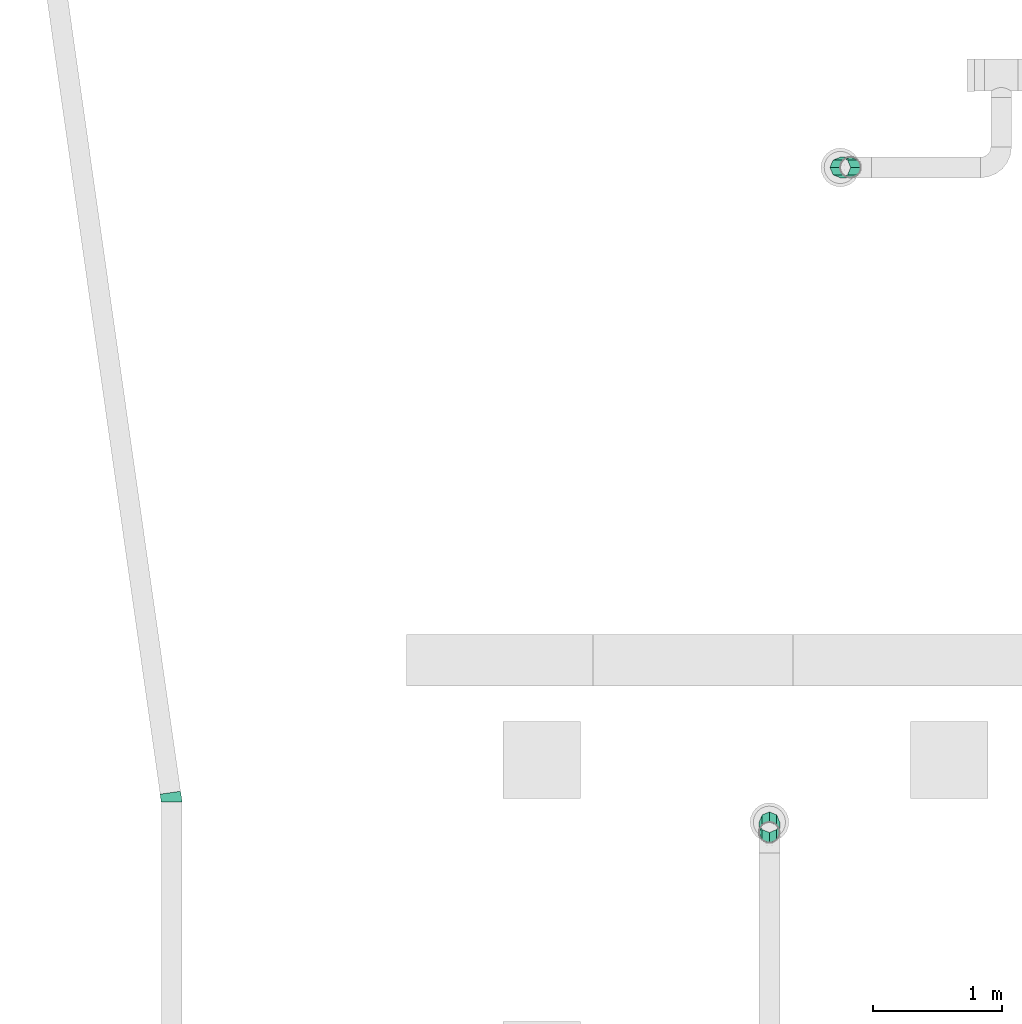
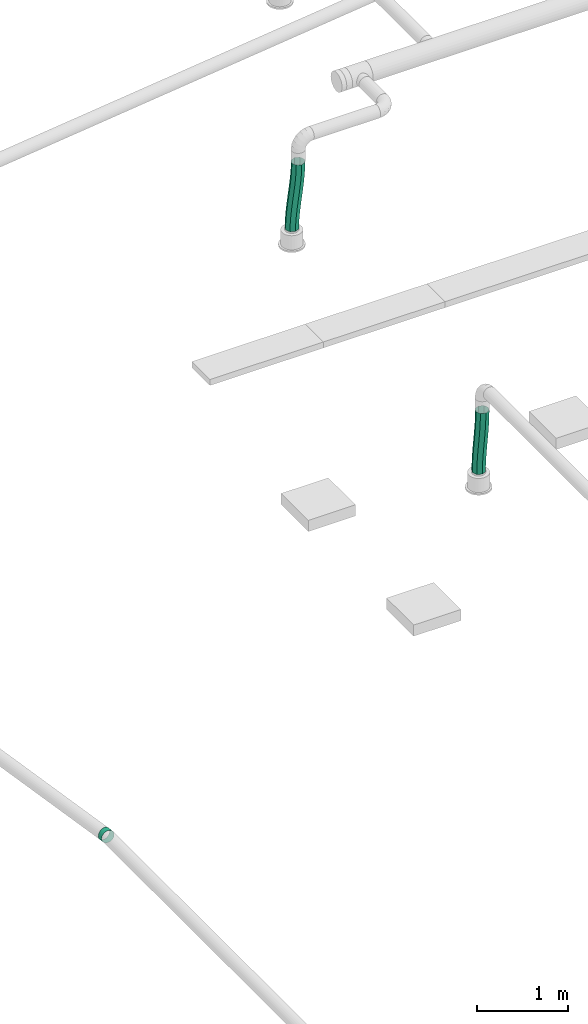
# One storey, part 237 of 374: 2 flow segments, 1 flow fitting.
"""IFC2X3 building model written with IfcOpenShell, lengths in metres."""

from ifc_helpers import new_model, si_unit, direction, origin, place, context, subcontext, project, spatial, open_shell, surface_model, source, transform, mapped, element, save


model = new_model("IFC2X3")

# Units and contexts
model_context = context("Model", 3, precision=1e-05, world=origin(), true_north=direction((-0.4480736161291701, 0.8939966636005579)))
body_context = subcontext(model_context, "Body", "Model", "MODEL_VIEW")
ifc_project = project(units=[si_unit("LENGTHUNIT", "METRE"), si_unit("AREAUNIT", "SQUARE_METRE"), si_unit("VOLUMEUNIT", "CUBIC_METRE"), si_unit("PLANEANGLEUNIT", "RADIAN"), si_unit("THERMODYNAMICTEMPERATUREUNIT", "KELVIN"), si_unit("MASSUNIT", "GRAM", prefix="KILO"), si_unit("TIMEUNIT", "SECOND")], contexts=[model_context])

# Site, building, storey
site_placement = place(None, origin())
site = spatial("IfcSite", under=ifc_project, at=site_placement, Name="Site 1", CompositionType="ELEMENT")
building_placement = place(site_placement, origin())
building = spatial("IfcBuilding", under=site, at=building_placement, Name="Undefined", CompositionType="ELEMENT")
storey_placement = place(building_placement, origin())
storey = spatial("IfcBuildingStorey", under=building, at=storey_placement, Name="Rez de chauss\x8ee", CompositionType="ELEMENT", Elevation=0.0)

# Flow fitting
shared_shape_1 = source(origin(), body_context, "Body", "SurfaceModel", [
    surface_model("IfcFaceBasedSurfaceModel", [(0.0, 0.020884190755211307, 0.0), (0.0, 0.0, 0.0), (0.06000000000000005, 8.8817842e-16, 0.0), (0.060000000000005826, 0.02088419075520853, 0.0), (0.0, -0.020172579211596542, -0.005405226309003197), (0.060000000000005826, -0.020172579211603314, -0.005405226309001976), (0.0, -0.03825881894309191, -0.015847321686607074), (0.060000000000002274, -0.03825881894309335, -0.015847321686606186), (0.0, -0.05302617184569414, -0.0306146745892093), (0.060000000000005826, -0.05302617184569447, -0.030614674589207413), (0.0, -0.06346826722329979, -0.04870091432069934), (0.060000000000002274, -0.06346826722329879, -0.04870091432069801), (0.0, -0.06887349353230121, -0.06887349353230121), (0.060000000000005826, -0.06887349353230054, -0.06887349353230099), (0.0, -0.06887349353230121, -0.08975768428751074), (0.060000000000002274, -0.06887349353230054, -0.08975768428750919), (0.0, -0.06346826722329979, -0.10993026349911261), (0.060000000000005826, -0.06346826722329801, -0.10993026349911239), (0.0, -0.05302617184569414, -0.12801650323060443), (0.060000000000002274, -0.05302617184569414, -0.12801650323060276), (0.0, -0.038258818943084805, -0.14278385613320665), (0.060000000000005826, -0.03825881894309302, -0.14278385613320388), (0.0, -0.020172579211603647, -0.15322595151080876), (0.060000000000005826, -0.020172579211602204, -0.15322595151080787), (0.0, 7.105427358e-15, -0.15863117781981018), (0.060000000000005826, 8.8817842e-16, -0.15863117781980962), (0.0, 0.020884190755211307, -0.15863117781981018), (0.060000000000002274, 0.020884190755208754, -0.1586311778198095), (0.0, 0.04105676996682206, -0.15322595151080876), (0.060000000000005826, 0.041056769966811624, -0.15322595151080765), (0.0, 0.05914300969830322, -0.1427838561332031), (0.060000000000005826, 0.05914300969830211, -0.14278385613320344), (0.0, 0.07391036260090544, -0.12801650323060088), (0.060000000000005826, 0.073910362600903, -0.12801650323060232), (0.0, 0.0843524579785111, -0.10993026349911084), (0.060000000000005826, 0.0843524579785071, -0.10993026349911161), (0.0, 0.08975768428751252, -0.08975768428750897), (0.060000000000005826, 0.08975768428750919, -0.08975768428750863), (0.0, 0.08975768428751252, -0.06887349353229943), (0.060000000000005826, 0.08975768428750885, -0.06887349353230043), (0.0, 0.0843524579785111, -0.048700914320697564), (0.060000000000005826, 0.08435245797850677, -0.04870091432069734), (0.0, 0.07391036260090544, -0.030614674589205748), (0.060000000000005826, 0.07391036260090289, -0.03061467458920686), (0.0, 0.05914300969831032, -0.015847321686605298), (0.060000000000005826, 0.05914300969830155, -0.015847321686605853), (0.0, 0.04105676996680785, -0.005405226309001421), (0.060000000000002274, 0.04105676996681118, -0.005405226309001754), (0.0722506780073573, -0.06844411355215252, -0.08981421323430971), (0.07244317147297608, -0.06843736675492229, -0.06893091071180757), (0.08444019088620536, -0.06715811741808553, -0.08998351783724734), (0.08482421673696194, -0.06713116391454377, -0.06910287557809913), (0.07168631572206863, -0.06305866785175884, -0.10998418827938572), (0.08331428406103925, -0.061831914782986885, -0.1101456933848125), (0.07078854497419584, -0.05264803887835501, -0.12806628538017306), (0.08152322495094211, -0.0515155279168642, -0.12821538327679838), (0.0696185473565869, -0.03792169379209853, -0.14282823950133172), (0.07918907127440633, -0.03691200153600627, -0.1429611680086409), (0.06825605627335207, -0.01988320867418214, -0.15326404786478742), (0.07647089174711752, -0.019016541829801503, -0.1533781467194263), (0.06679392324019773, 0.00023812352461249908, -0.15866252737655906), (0.07355392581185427, 0.0009513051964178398, -0.15875641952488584), (0.06533179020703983, 0.021071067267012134, -0.15865578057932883), (0.07063695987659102, 0.021630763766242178, -0.1587294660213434), (0.06396929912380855, 0.04119589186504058, -0.15324426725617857), (0.06791878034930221, 0.04161256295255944, -0.15329912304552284), (0.06279930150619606, 0.059241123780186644, -0.142796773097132), (0.06558462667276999, 0.05953497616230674, -0.14283545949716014), (0.06190153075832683, 0.07397701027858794, -0.12802527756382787), (0.0637935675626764, 0.07417662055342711, -0.12805155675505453), (0.06133716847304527, 0.08439932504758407, -0.1099364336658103), (0.06266766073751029, 0.08453969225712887, -0.10995491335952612), (0.06114467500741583, 0.08979780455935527, -0.08976296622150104), (0.0622836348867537, 0.08991796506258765, -0.08977878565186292), (0.06133716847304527, 0.08980455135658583, -0.0688796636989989), (0.06266766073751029, 0.08994491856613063, -0.06889814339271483), (0.06190153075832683, 0.0844191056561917, -0.04870968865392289), (0.0637935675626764, 0.08461871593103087, -0.04873596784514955), (0.06279930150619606, 0.07400847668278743, -0.030627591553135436), (0.06558462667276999, 0.07430232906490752, -0.030666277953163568), (0.06396929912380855, 0.05928213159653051, -0.015865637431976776), (0.06791878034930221, 0.05969880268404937, -0.015920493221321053), (0.06533179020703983, 0.04124364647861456, -0.005429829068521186), (0.07063695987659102, 0.041803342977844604, -0.0055035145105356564), (0.06679392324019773, 0.021122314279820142, -3.134955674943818e-05), (0.07355392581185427, 0.021835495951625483, -0.0001252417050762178), (0.06825605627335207, 0.00028937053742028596, -3.8096353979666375e-05), (0.07647089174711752, 0.0011560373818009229, -0.00015219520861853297), (0.0696185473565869, -0.019835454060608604, -0.00544960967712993), (0.07918907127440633, -0.01882576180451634, -0.005582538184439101), (0.07078854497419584, -0.037880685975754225, -0.015897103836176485), (0.08152322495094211, -0.03674817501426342, -0.0160462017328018), (0.07168631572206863, -0.05261657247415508, -0.030668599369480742), (0.08331428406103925, -0.05138981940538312, -0.030830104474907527), (0.0722506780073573, -0.06303888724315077, -0.048757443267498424), (0.08444019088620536, -0.061752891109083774, -0.04892674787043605)], [open_shell([[[0, 1, 2, 3]], [[1, 4, 5, 2]], [[4, 6, 7, 5]], [[6, 8, 9, 7]], [[8, 10, 11, 9]], [[10, 12, 13, 11]], [[12, 14, 15, 13]], [[14, 16, 17, 15]], [[16, 18, 19, 17]], [[18, 20, 21, 19]], [[20, 22, 23, 21]], [[22, 24, 25, 23]], [[24, 26, 27, 25]], [[26, 28, 29, 27]], [[28, 30, 31, 29]], [[30, 32, 33, 31]], [[32, 34, 35, 33]], [[34, 36, 37, 35]], [[36, 38, 39, 37]], [[38, 40, 41, 39]], [[40, 42, 43, 41]], [[42, 44, 45, 43]], [[44, 46, 47, 45]], [[46, 0, 3, 47]], [[13, 15, 48, 49]], [[49, 48, 50, 51]], [[15, 17, 52, 48]], [[48, 52, 53, 50]], [[17, 19, 54, 52]], [[52, 54, 55, 53]], [[19, 21, 56, 54]], [[54, 56, 57, 55]], [[21, 23, 58, 56]], [[56, 58, 59, 57]], [[23, 25, 60, 58]], [[58, 60, 61, 59]], [[25, 27, 62, 60]], [[60, 62, 63, 61]], [[27, 29, 64, 62]], [[62, 64, 65, 63]], [[29, 31, 66, 64]], [[64, 66, 67, 65]], [[31, 33, 68, 66]], [[66, 68, 69, 67]], [[33, 35, 70, 68]], [[68, 70, 71, 69]], [[35, 37, 72, 70]], [[70, 72, 73, 71]], [[37, 39, 74, 72]], [[72, 74, 75, 73]], [[39, 41, 76, 74]], [[74, 76, 77, 75]], [[41, 43, 78, 76]], [[76, 78, 79, 77]], [[43, 45, 80, 78]], [[78, 80, 81, 79]], [[45, 47, 82, 80]], [[80, 82, 83, 81]], [[47, 3, 84, 82]], [[82, 84, 85, 83]], [[3, 2, 86, 84]], [[84, 86, 87, 85]], [[2, 5, 88, 86]], [[86, 88, 89, 87]], [[5, 7, 90, 88]], [[88, 90, 91, 89]], [[7, 9, 92, 90]], [[90, 92, 93, 91]], [[9, 11, 94, 92]], [[92, 94, 95, 93]], [[11, 13, 49, 94]], [[94, 49, 51, 95]]])]),
])
flow_fitting_placement = place(storey_placement, origin())
element("IfcFlowFitting", 1, at=flow_fitting_placement, inside=storey, Name="PE-HD coude 90° à grand rayon", ObjectType="PE-HD coude 90° à grand rayon", context=body_context, shape_type="MappedRepresentation", body=[
    mapped(shared_shape_1, transform((-1.6418663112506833, 17.187066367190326, -0.8708619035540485), x_axis=(0.14087863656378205, -0.9900268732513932, 0.0), y_axis=(-0.9815570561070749, -0.1396734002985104, -0.13052619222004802), z_axis=(0.12922443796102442, 0.018388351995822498, -0.9914448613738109))),
])

# Flow segments
shared_shape_2 = source(origin(), body_context, "Body", "SurfaceModel", [
    surface_model("IfcFaceBasedSurfaceModel", [(0.09425707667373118, -1.776356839e-15, -1.33226763e-15), (0.05356602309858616, 0.045752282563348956, -8.8817842e-16), (0.0, 0.0, 0.0), (0.03894014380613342, -0.047251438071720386, -1.15084111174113e-06), (-0.05541274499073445, -0.0440415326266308, 0.0010358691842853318), (-0.017993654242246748, -0.09250640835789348, 0.0010617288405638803), (-0.11243304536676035, -0.0867910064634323, 0.002911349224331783), (-0.07622094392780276, -0.1361642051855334, 0.002975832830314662), (-0.1707571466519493, -0.12862219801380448, 0.0054269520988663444), (-0.1354183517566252, -0.1786241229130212, 0.005528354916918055), (-0.23007333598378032, -0.1699146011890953, 0.00837924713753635), (-0.19526250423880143, -0.220285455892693, 0.008506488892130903), (-0.2900642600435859, -0.21105507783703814, 0.011560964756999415), (-0.2554300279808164, -0.2615474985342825, 0.011697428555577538), (-0.35040838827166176, -0.2524386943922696, 0.014761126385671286), (-0.315597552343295, -0.30280954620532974, 0.014888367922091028), (-0.4107805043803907, -0.2944689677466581, 0.017765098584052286), (-0.37544170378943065, -0.34447088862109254, 0.017866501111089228), (-0.4708512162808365, -0.33755762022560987, 0.02035453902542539), (-0.4346391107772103, -0.38693081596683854, 0.020419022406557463), (-0.5302854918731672, -0.38212374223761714, 0.022307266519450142), (-0.4928664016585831, -0.43058861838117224, 0.02233312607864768), (-0.5887403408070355, -0.4285921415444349, 0.023397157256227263), (-0.5498002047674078, -0.4758435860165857, 0.023396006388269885), (-0.6458081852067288, -0.4773427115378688, 0.02339485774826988), (-0.605117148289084, -0.5230950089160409, 0.023394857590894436), (0.02506153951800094, 0.07834277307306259, -0.04329419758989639), (-0.02777923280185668, 0.033211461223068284, -0.043293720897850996), (-0.08256193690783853, -0.010327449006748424, -0.042269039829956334), (-0.13908228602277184, -0.05270068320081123, -0.040409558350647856), (-0.19704465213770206, -0.09427144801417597, -0.037909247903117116), (-0.2561421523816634, -0.13541103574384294, -0.03496765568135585), (-0.31605992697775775, -0.1765011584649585, -0.03178975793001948), (-0.3764772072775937, -0.21793513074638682, -0.02858577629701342), (-0.4370680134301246, -0.26011822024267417, -0.025571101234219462), (-0.4975004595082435, -0.30346729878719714, -0.022966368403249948), (-0.5574346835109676, -0.34840965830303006, -0.02099764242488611), (-0.6165195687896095, -0.39538067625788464, -0.019896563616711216), (-0.6743126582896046, -0.4447522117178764, -0.019899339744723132), (0.02544116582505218, 0.07868040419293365, -0.10452143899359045), (-0.028124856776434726, 0.03292812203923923, -0.10452143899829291), (-0.08353760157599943, -0.011113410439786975, -0.10348556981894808), (-0.14055790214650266, -0.05386288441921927, -0.1016100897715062), (-0.19888200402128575, -0.09569407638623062, -0.09909448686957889), (-0.2581981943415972, -0.13698648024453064, -0.09614219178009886), (-0.31818911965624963, -0.1781269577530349, -0.09296047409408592), (-0.3785332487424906, -0.2195105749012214, -0.08976031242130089), (-0.43890536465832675, -0.26154084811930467, -0.08675634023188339), (-0.4989760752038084, -0.30462949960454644, -0.08416689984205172), (-0.5584103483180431, -0.3491956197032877, -0.08221417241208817), (-0.6168651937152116, -0.3956640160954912, -0.08112428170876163), (-0.673933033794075, -0.44441458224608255, -0.08112658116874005), (0.05448252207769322, 0.0465673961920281, -0.14781563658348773), (-0.0008344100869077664, -0.0006840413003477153, -0.1478167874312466), (-0.05776820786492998, -0.045939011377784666, -0.1467539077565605), (-0.11599549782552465, -0.08959680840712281, -0.14483980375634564), (-0.17519290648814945, -0.1320567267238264, -0.14228728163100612), (-0.2350370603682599, -0.17371806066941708, -0.13930914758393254), (-0.2952045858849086, -0.21498010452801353, -0.13611820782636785), (-0.3553721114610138, -0.2562421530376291, -0.13292726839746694), (-0.4152162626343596, -0.297903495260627, -0.12994913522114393), (-0.47441366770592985, -0.34036342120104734, -0.12739661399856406), (-0.5326409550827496, -0.38402122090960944, -0.12548251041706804), (-0.5895747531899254, -0.4292761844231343, -0.12441963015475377), (-0.6448916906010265, -0.4765276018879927, -0.12442077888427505), (0.09517357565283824, 0.0008151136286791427, -0.1478156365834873), (0.0381057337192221, -0.047935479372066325, -0.14781793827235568), (-0.02034911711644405, -0.09440388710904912, -0.1467280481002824), (-0.07978339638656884, -0.13897000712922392, -0.14477532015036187), (-0.13985411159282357, -0.1820586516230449, -0.1421858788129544), (-0.2002262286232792, -0.22408891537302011, -0.13918190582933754), (-0.2605703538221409, -0.2654725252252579, -0.1359817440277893), (-0.32056127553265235, -0.30661300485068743, -0.13280002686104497), (-0.3798774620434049, -0.3479054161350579, -0.12984773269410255), (-0.4382015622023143, -0.38973661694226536, -0.12733213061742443), (-0.49522186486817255, -0.4324860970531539, -0.12545665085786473), (-0.5506346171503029, -0.4765276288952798, -0.12442078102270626), (-0.6042006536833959, -0.5222798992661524, -0.12442077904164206), (0.1236780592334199, -0.03177537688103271, -0.10452143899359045), (0.06588496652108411, -0.08114694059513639, -0.10452421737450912), (0.00680007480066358, -0.1281179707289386, -0.10342313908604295), (-0.053134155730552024, -0.1730603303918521, -0.10145441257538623), (-0.11356660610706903, -0.21640940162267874, -0.09884967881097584), (-0.1741574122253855, -0.25859248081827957, -0.095835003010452), (-0.2345746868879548, -0.3000264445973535, -0.09263102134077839), (-0.2944924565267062, -0.3411165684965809, -0.08945312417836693), (-0.35358995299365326, -0.382256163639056, -0.0865115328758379), (-0.4115523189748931, -0.4238269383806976, -0.08401122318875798), (-0.4680726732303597, -0.4662001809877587, -0.08215174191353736), (-0.5228553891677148, -0.5097390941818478, -0.08112706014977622), (-0.5756961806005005, -0.5548703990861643, -0.08112658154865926), (0.12329843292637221, -0.03211300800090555, -0.04329419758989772), (0.06623059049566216, -0.0808636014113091, -0.04329649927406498), (0.007775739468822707, -0.12733200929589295, -0.0422066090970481), (-0.05165853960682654, -0.17189812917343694, -0.040253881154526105), (-0.1117292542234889, -0.21498677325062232, -0.037664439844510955), (-0.17210137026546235, -0.2570170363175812, -0.03466046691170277), (-0.23244549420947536, -0.29840064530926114, -0.03146030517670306), (-0.2924364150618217, -0.3395411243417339, -0.028278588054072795), (-0.3517526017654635, -0.38083353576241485, -0.025326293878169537), (-0.4100767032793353, -0.42266473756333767, -0.02281069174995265), (-0.46709700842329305, -0.4654142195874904, -0.020935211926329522), (-0.5225097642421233, -0.5094557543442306, -0.019899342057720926), (-0.5760758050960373, -0.555208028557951, -0.019899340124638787)], [open_shell([[[0, 1, 2]], [[2, 3, 0]], [[3, 2, 4]], [[4, 5, 3]], [[5, 4, 6]], [[6, 7, 5]], [[7, 6, 8]], [[8, 9, 7]], [[9, 8, 10]], [[10, 11, 9]], [[11, 10, 12]], [[12, 13, 11]], [[13, 12, 14]], [[14, 15, 13]], [[15, 14, 16]], [[16, 17, 15]], [[17, 16, 18]], [[18, 19, 17]], [[19, 18, 20]], [[20, 21, 19]], [[21, 20, 22]], [[22, 23, 21]], [[23, 22, 24]], [[24, 25, 23]], [[1, 26, 27]], [[27, 2, 1]], [[2, 27, 28]], [[28, 4, 2]], [[4, 28, 29]], [[29, 6, 4]], [[6, 29, 30]], [[30, 8, 6]], [[8, 30, 31]], [[31, 10, 8]], [[10, 31, 32]], [[32, 12, 10]], [[12, 32, 33]], [[33, 14, 12]], [[14, 33, 34]], [[34, 16, 14]], [[16, 34, 35]], [[35, 18, 16]], [[18, 35, 36]], [[36, 20, 18]], [[20, 36, 37]], [[37, 22, 20]], [[22, 37, 38]], [[38, 24, 22]], [[26, 39, 40]], [[40, 27, 26]], [[27, 40, 41]], [[41, 28, 27]], [[28, 41, 42]], [[42, 29, 28]], [[29, 42, 43]], [[43, 30, 29]], [[30, 43, 44]], [[44, 31, 30]], [[31, 44, 45]], [[45, 32, 31]], [[32, 45, 46]], [[46, 33, 32]], [[33, 46, 47]], [[47, 34, 33]], [[34, 47, 48]], [[48, 35, 34]], [[35, 48, 49]], [[49, 36, 35]], [[36, 49, 50]], [[50, 37, 36]], [[37, 50, 51]], [[51, 38, 37]], [[39, 52, 53]], [[53, 40, 39]], [[40, 53, 54]], [[54, 41, 40]], [[41, 54, 55]], [[55, 42, 41]], [[42, 55, 56]], [[56, 43, 42]], [[43, 56, 57]], [[57, 44, 43]], [[44, 57, 58]], [[58, 45, 44]], [[45, 58, 59]], [[59, 46, 45]], [[46, 59, 60]], [[60, 47, 46]], [[47, 60, 61]], [[61, 48, 47]], [[48, 61, 62]], [[62, 49, 48]], [[49, 62, 63]], [[63, 50, 49]], [[50, 63, 64]], [[64, 51, 50]], [[52, 65, 66]], [[66, 53, 52]], [[53, 66, 67]], [[67, 54, 53]], [[54, 67, 68]], [[68, 55, 54]], [[55, 68, 69]], [[69, 56, 55]], [[56, 69, 70]], [[70, 57, 56]], [[57, 70, 71]], [[71, 58, 57]], [[58, 71, 72]], [[72, 59, 58]], [[59, 72, 73]], [[73, 60, 59]], [[60, 73, 74]], [[74, 61, 60]], [[61, 74, 75]], [[75, 62, 61]], [[62, 75, 76]], [[76, 63, 62]], [[63, 76, 77]], [[77, 64, 63]], [[65, 78, 79]], [[79, 66, 65]], [[66, 79, 80]], [[80, 67, 66]], [[67, 80, 81]], [[81, 68, 67]], [[68, 81, 82]], [[82, 69, 68]], [[69, 82, 83]], [[83, 70, 69]], [[70, 83, 84]], [[84, 71, 70]], [[71, 84, 85]], [[85, 72, 71]], [[72, 85, 86]], [[86, 73, 72]], [[73, 86, 87]], [[87, 74, 73]], [[74, 87, 88]], [[88, 75, 74]], [[75, 88, 89]], [[89, 76, 75]], [[76, 89, 90]], [[90, 77, 76]], [[78, 91, 92]], [[92, 79, 78]], [[79, 92, 93]], [[93, 80, 79]], [[80, 93, 94]], [[94, 81, 80]], [[81, 94, 95]], [[95, 82, 81]], [[82, 95, 96]], [[96, 83, 82]], [[83, 96, 97]], [[97, 84, 83]], [[84, 97, 98]], [[98, 85, 84]], [[85, 98, 99]], [[99, 86, 85]], [[86, 99, 100]], [[100, 87, 86]], [[87, 100, 101]], [[101, 88, 87]], [[88, 101, 102]], [[102, 89, 88]], [[89, 102, 103]], [[103, 90, 89]], [[91, 0, 3]], [[3, 92, 91]], [[92, 3, 5]], [[5, 93, 92]], [[93, 5, 7]], [[7, 94, 93]], [[94, 7, 9]], [[9, 95, 94]], [[95, 9, 11]], [[11, 96, 95]], [[96, 11, 13]], [[13, 97, 96]], [[97, 13, 15]], [[15, 98, 97]], [[98, 15, 17]], [[17, 99, 98]], [[99, 17, 19]], [[19, 100, 99]], [[100, 19, 21]], [[21, 101, 100]], [[101, 21, 23]], [[23, 102, 101]], [[102, 23, 25]], [[25, 103, 102]]])]),
])
flow_segment_1_placement = place(storey_placement, origin())
element("IfcFlowSegment", 2, at=flow_segment_1_placement, inside=storey, Name="Tube flexible", ObjectType="Tube flexible", context=body_context, shape_type="MappedRepresentation", body=[
    mapped(shared_shape_2, transform((2.9234845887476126, 16.93339267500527, 3.4095709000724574), x_axis=(-0.2485909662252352, -0.6163532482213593, 0.7472022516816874), y_axis=(0.29104622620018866, 0.6882384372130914, 0.6645449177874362), z_axis=(-0.9238477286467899, 0.3826702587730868, 0.008297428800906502))),
])
shared_shape_3 = source(origin(), body_context, "Body", "SurfaceModel", [
    surface_model("IfcFaceBasedSurfaceModel", [(0.09295191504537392, 0.0, -8.8817842e-16), (0.05300383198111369, 0.04640241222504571, 0.0), (0.0, 0.0, 0.0), (0.04066677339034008, -0.04577386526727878, 1.1506142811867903e-06), (-0.052542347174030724, -0.04737458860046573, 0.0025003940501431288), (-0.011276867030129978, -0.09260944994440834, 0.00247453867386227), (-0.10482019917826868, -0.09563307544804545, 0.0070274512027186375), (-0.06309536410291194, -0.14044453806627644, 0.0069629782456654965), (-0.15697377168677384, -0.14463318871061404, 0.013099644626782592), (-0.11492478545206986, -0.1891405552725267, 0.012998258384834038), (-0.20914411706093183, -0.19422815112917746, 0.020225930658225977), (-0.16690238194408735, -0.23855255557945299, 0.020098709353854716), (-0.26147518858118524, -0.24426862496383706, 0.027905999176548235), (-0.21916950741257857, -0.28853197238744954, 0.02776955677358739), (-0.31411500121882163, -0.2946038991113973, 0.03563058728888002), (-0.2718732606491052, -0.3389282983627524, 0.03550336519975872), (-0.3672160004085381, -0.345082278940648, 0.0428816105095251), (-0.3251670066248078, -0.3895896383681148, 0.042780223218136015), (-0.4209346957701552, -0.3955506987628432, 0.049132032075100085), (-0.3792098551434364, -0.4403621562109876, 0.04906755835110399), (-0.475430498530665, -0.44585353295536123, 0.053845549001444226), (-0.434165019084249, -0.49108839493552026, 0.05381969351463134), (-0.5308636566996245, -0.49583065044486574, 0.05647634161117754), (-0.4901968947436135, -0.541604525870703, 0.05647749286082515), (-0.587337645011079, -0.5452679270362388, 0.0564707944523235), (-0.5473895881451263, -0.591670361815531, 0.05647079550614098), (0.02541343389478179, 0.07977962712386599, -0.043287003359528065), (-0.029325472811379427, 0.03185976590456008, -0.043289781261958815), (-0.08331322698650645, -0.016816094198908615, -0.04072418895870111), (-0.13670005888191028, -0.06609675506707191, -0.036103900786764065), (-0.18963619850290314, -0.11583101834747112, -0.02994259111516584), (-0.2422718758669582, -0.16586768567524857, -0.022753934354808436), (-0.2947573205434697, -0.21605555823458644, -0.015051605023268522), (-0.34724276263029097, -0.26624343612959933, -0.00734927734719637), (-0.3998784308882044, -0.3162801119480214, -0.00016062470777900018), (-0.4528145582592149, -0.3660143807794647, 0.00600068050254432), (-0.50620137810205, -0.41529503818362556, 0.010620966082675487), (-0.5601891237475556, -0.4639708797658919, 0.013186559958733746), (-0.6149280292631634, -0.5118907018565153, 0.013183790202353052), (0.026342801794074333, 0.08057972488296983, -0.10450407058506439), (-0.03013118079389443, 0.03114241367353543, -0.10450962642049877), (-0.08556434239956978, -0.018834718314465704, -0.10187883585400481), (-0.14006015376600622, -0.0691375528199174, -0.09716531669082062), (-0.19377885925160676, -0.11960596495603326, -0.09091489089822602), (-0.24687986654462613, -0.17008433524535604, -0.08366386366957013), (-0.29951968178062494, -0.22041960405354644, -0.07593927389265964), (-0.3518507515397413, -0.27046008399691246, -0.06825920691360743), (-0.4040210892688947, -0.3200550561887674, -0.06113292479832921), (-0.4561746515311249, -0.3690551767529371, -0.055060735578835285), (-0.5084524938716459, -0.4173136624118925, -0.050533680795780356), (-0.5609948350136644, -0.46468823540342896, -0.048033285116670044), (-0.6139986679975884, -0.511090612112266, -0.048033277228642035), (0.0552475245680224, 0.04833401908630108, -0.14779107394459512), (-0.0019451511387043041, -0.0017318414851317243, -0.14779778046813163), (-0.057977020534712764, -0.05224797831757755, -0.14513998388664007), (-0.11293218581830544, -0.10297421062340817, -0.14038784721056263), (-0.1669750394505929, -0.1537467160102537, -0.13410050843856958), (-0.22026879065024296, -0.2044080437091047, -0.1268236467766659), (-0.27297254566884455, -0.2548043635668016, -0.11908983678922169), (-0.32523967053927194, -0.30478378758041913, -0.11141899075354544), (-0.3772172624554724, -0.35419580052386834, -0.10431854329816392), (-0.42904667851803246, -0.4028918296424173, -0.09828326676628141), (-0.48086517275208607, -0.4507269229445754, -0.09379482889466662), (-0.532808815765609, -0.4975625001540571, -0.09132143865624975), (-0.585093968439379, -0.5433363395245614, -0.09132027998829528), (0.09519560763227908, 0.001931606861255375, -0.14779107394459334), (0.038721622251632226, -0.047505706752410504, -0.14779662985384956), (-0.0167115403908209, -0.09748283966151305, -0.14516583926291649), (-0.07120735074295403, -0.14778567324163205, -0.14045232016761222), (-0.12492605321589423, -0.19825408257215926, -0.13420189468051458), (-0.17802705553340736, -0.24873244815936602, -0.12695086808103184), (-0.23066686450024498, -0.29906771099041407, -0.11922627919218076), (-0.28299792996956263, -0.3491081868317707, -0.11154621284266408), (-0.3351682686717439, -0.39870315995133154, -0.10441993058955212), (-0.38732183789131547, -0.4477032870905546, -0.09834774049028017), (-0.4395996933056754, -0.49596178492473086, -0.09382068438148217), (-0.4921420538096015, -0.5433363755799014, -0.0913202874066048), (-0.5451459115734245, -0.5897387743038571, -0.09132027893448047), (0.12278600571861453, -0.03144560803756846, -0.10450407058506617), (0.06804709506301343, -0.07936547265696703, -0.10450684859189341), (0.014059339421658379, -0.12804133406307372, -0.10194125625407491), (-0.039327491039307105, -0.17732199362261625, -0.09732096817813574), (-0.09226362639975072, -0.22705625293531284, -0.09115965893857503), (-0.14489929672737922, -0.27709291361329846, -0.08397100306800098), (-0.1973847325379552, -0.3272807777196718, -0.07626867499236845), (-0.24987016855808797, -0.3774686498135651, -0.06856634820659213), (-0.302505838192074, -0.42750532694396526, -0.06137769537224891), (-0.3554419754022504, -0.4772396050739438, -0.05521638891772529), (-0.4088288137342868, -0.526520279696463, -0.05059610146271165), (-0.4628165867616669, -0.5751961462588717, -0.048030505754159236), (-0.5175555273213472, -0.6231159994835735, -0.04803327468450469), (0.12185663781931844, -0.032245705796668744, -0.04328700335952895), (0.06885280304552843, -0.07864812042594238, -0.043287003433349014), (0.016310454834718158, -0.12602270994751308, -0.04078660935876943), (-0.03596739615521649, -0.1742811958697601, -0.03625955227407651), (-0.08812096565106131, -0.22328130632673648, -0.030187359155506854), (-0.14029130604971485, -0.27287626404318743, -0.02306107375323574), (-0.1926223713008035, -0.3229167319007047, -0.015381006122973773), (-0.24526217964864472, -0.3732520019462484, -0.007656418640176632), (-0.2983631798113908, -0.42373038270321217, -0.0004053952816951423), (-0.3520818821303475, -0.4741988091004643, 0.00584502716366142), (-0.406577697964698, -0.524501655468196, 0.010558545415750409), (-0.46201087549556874, -0.574478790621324, 0.013189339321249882), (-0.518484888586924, -0.6239160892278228, 0.013183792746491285)], [open_shell([[[0, 1, 2]], [[2, 3, 0]], [[3, 2, 4]], [[4, 5, 3]], [[5, 4, 6]], [[6, 7, 5]], [[7, 6, 8]], [[8, 9, 7]], [[9, 8, 10]], [[10, 11, 9]], [[11, 10, 12]], [[12, 13, 11]], [[13, 12, 14]], [[14, 15, 13]], [[15, 14, 16]], [[16, 17, 15]], [[17, 16, 18]], [[18, 19, 17]], [[19, 18, 20]], [[20, 21, 19]], [[21, 20, 22]], [[22, 23, 21]], [[23, 22, 24]], [[24, 25, 23]], [[1, 26, 27]], [[27, 2, 1]], [[2, 27, 28]], [[28, 4, 2]], [[4, 28, 29]], [[29, 6, 4]], [[6, 29, 30]], [[30, 8, 6]], [[8, 30, 31]], [[31, 10, 8]], [[10, 31, 32]], [[32, 12, 10]], [[12, 32, 33]], [[33, 14, 12]], [[14, 33, 34]], [[34, 16, 14]], [[16, 34, 35]], [[35, 18, 16]], [[18, 35, 36]], [[36, 20, 18]], [[20, 36, 37]], [[37, 22, 20]], [[22, 37, 38]], [[38, 24, 22]], [[26, 39, 40]], [[40, 27, 26]], [[27, 40, 41]], [[41, 28, 27]], [[28, 41, 42]], [[42, 29, 28]], [[29, 42, 43]], [[43, 30, 29]], [[30, 43, 44]], [[44, 31, 30]], [[31, 44, 45]], [[45, 32, 31]], [[32, 45, 46]], [[46, 33, 32]], [[33, 46, 47]], [[47, 34, 33]], [[34, 47, 48]], [[48, 35, 34]], [[35, 48, 49]], [[49, 36, 35]], [[36, 49, 50]], [[50, 37, 36]], [[37, 50, 51]], [[51, 38, 37]], [[39, 52, 53]], [[53, 40, 39]], [[40, 53, 54]], [[54, 41, 40]], [[41, 54, 55]], [[55, 42, 41]], [[42, 55, 56]], [[56, 43, 42]], [[43, 56, 57]], [[57, 44, 43]], [[44, 57, 58]], [[58, 45, 44]], [[45, 58, 59]], [[59, 46, 45]], [[46, 59, 60]], [[60, 47, 46]], [[47, 60, 61]], [[61, 48, 47]], [[48, 61, 62]], [[62, 49, 48]], [[49, 62, 63]], [[63, 50, 49]], [[50, 63, 64]], [[64, 51, 50]], [[52, 65, 66]], [[66, 53, 52]], [[53, 66, 67]], [[67, 54, 53]], [[54, 67, 68]], [[68, 55, 54]], [[55, 68, 69]], [[69, 56, 55]], [[56, 69, 70]], [[70, 57, 56]], [[57, 70, 71]], [[71, 58, 57]], [[58, 71, 72]], [[72, 59, 58]], [[59, 72, 73]], [[73, 60, 59]], [[60, 73, 74]], [[74, 61, 60]], [[61, 74, 75]], [[75, 62, 61]], [[62, 75, 76]], [[76, 63, 62]], [[63, 76, 77]], [[77, 64, 63]], [[65, 78, 79]], [[79, 66, 65]], [[66, 79, 80]], [[80, 67, 66]], [[67, 80, 81]], [[81, 68, 67]], [[68, 81, 82]], [[82, 69, 68]], [[69, 82, 83]], [[83, 70, 69]], [[70, 83, 84]], [[84, 71, 70]], [[71, 84, 85]], [[85, 72, 71]], [[72, 85, 86]], [[86, 73, 72]], [[73, 86, 87]], [[87, 74, 73]], [[74, 87, 88]], [[88, 75, 74]], [[75, 88, 89]], [[89, 76, 75]], [[76, 89, 90]], [[90, 77, 76]], [[78, 91, 92]], [[92, 79, 78]], [[79, 92, 93]], [[93, 80, 79]], [[80, 93, 94]], [[94, 81, 80]], [[81, 94, 95]], [[95, 82, 81]], [[82, 95, 96]], [[96, 83, 82]], [[83, 96, 97]], [[97, 84, 83]], [[84, 97, 98]], [[98, 85, 84]], [[85, 98, 99]], [[99, 86, 85]], [[86, 99, 100]], [[100, 87, 86]], [[87, 100, 101]], [[101, 88, 87]], [[88, 101, 102]], [[102, 89, 88]], [[89, 102, 103]], [[103, 90, 89]], [[91, 0, 3]], [[3, 92, 91]], [[92, 3, 5]], [[5, 93, 92]], [[93, 5, 7]], [[7, 94, 93]], [[94, 7, 9]], [[9, 95, 94]], [[95, 9, 11]], [[11, 96, 95]], [[96, 11, 13]], [[13, 97, 96]], [[97, 13, 15]], [[15, 98, 97]], [[98, 15, 17]], [[17, 99, 98]], [[99, 17, 19]], [[19, 100, 99]], [[100, 19, 21]], [[21, 101, 100]], [[101, 21, 23]], [[23, 102, 101]], [[102, 23, 25]], [[25, 103, 102]]])]),
])
flow_segment_2_placement = place(storey_placement, origin())
element("IfcFlowSegment", 3, at=flow_segment_2_placement, inside=storey, Name="Tube flexible", ObjectType="Tube flexible", context=body_context, shape_type="MappedRepresentation", body=[
    mapped(shared_shape_3, transform((3.5511608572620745, 22.085805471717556, 3.4095709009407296), x_axis=(-0.23565244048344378, -0.6085785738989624, 0.7576939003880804), y_axis=(0.3020876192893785, 0.6951577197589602, 0.6523027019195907), z_axis=(-0.9236942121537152, 0.3826066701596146, 0.020028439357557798))),
])

save(model, "model.ifc")
